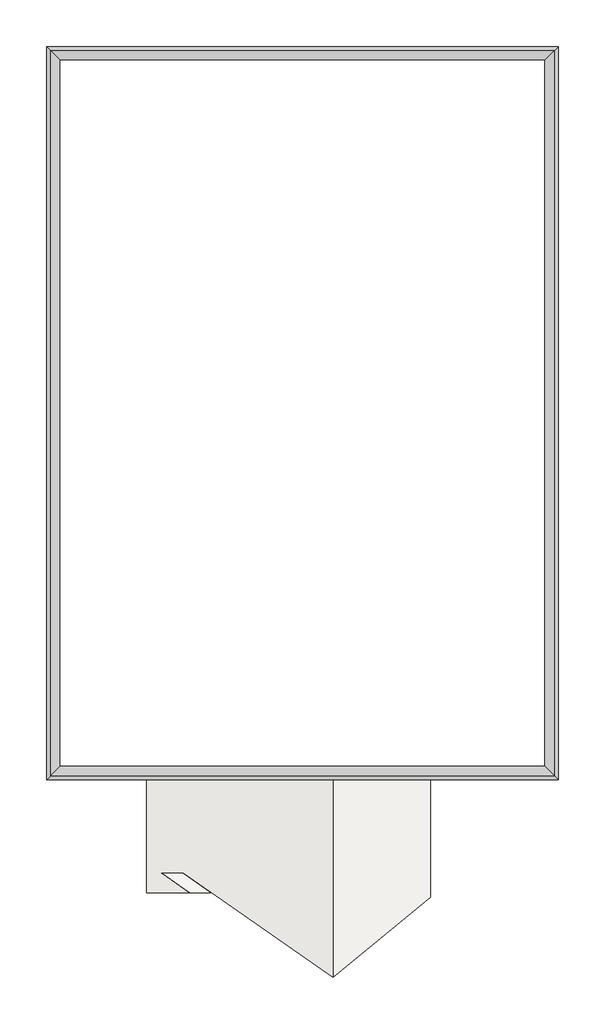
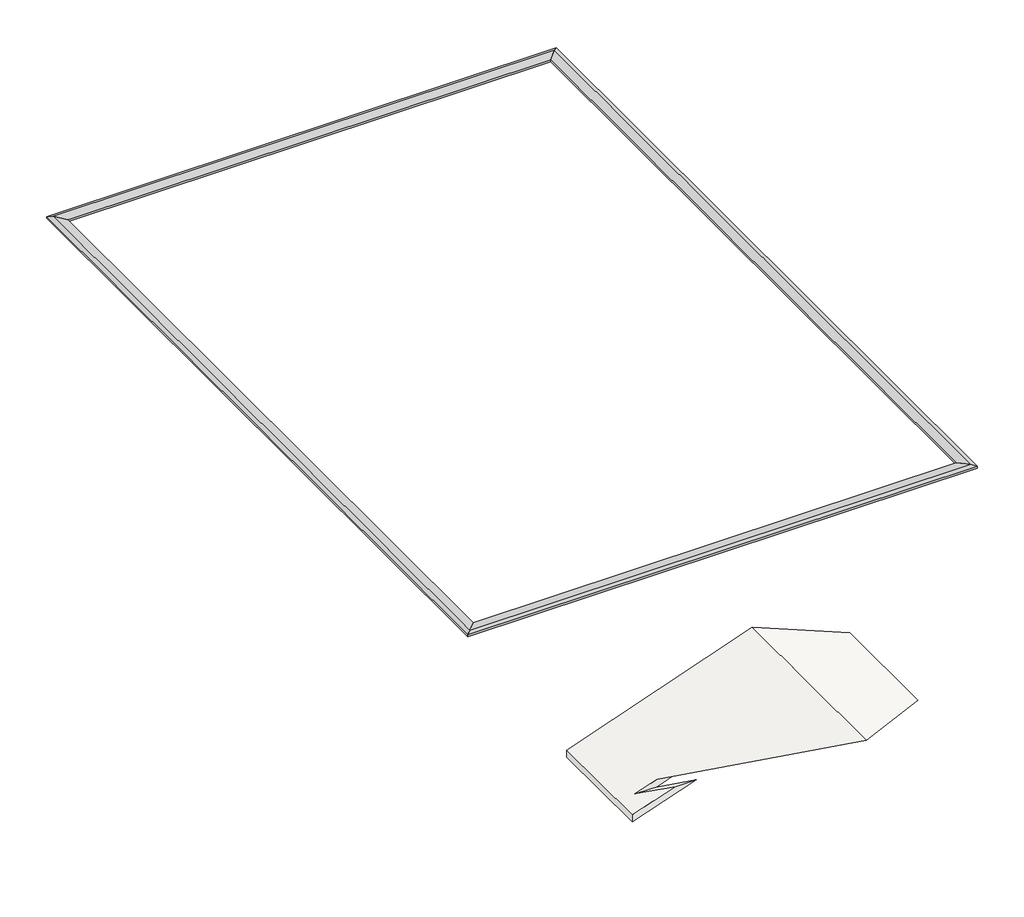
# One storey: 4 proxies, 1 roof.
"""IFC4 building model written with IfcOpenShell, lengths in millimetres."""

from ifc_helpers import new_model, si_unit, origin, place, context, project, spatial, faceted_brep, element, save

model = new_model("IFC4")

# Units and contexts
model_context = context("Model", 3, world=origin())
ifc_project = project(units=[si_unit("LENGTHUNIT", "METRE", prefix="MILLI")], contexts=[model_context])

# Site, building, storey
site = spatial("IfcSite", under=ifc_project)
building = spatial("IfcBuilding", under=site)
storey = spatial("IfcBuildingStorey", under=building, Name="T. O. Parapet", Elevation=49987.2)

# Proxies
placement = place(None, origin())
element("IfcBuildingElementProxy", 1, Name="Wall Sweeps", at=placement, inside=storey, context=model_context, shape_type="Brep", body=[
    faceted_brep([(-14468.5042336, 21674.0605156, 50050.7), (-14747.9042336, 21953.4605156, 50088.8), (-14874.9042336, 22080.4605156, 50050.7), (-14874.9042336, 22080.4605156, 49987.2), (-14468.5042336, 21674.0605156, 49987.2), (260.3207664, 21674.0605156, 50050.7), (260.3207664, 21674.0605156, 49987.2), (666.7207664, 22080.4605156, 49987.2), (666.7207664, 22080.4605156, 50050.7), (539.7207664, 21953.4605156, 50088.8)], [[[0, 1, 2, 3, 4]], [[5, 6, 7, 8, 9]], [[1, 0, 5, 9]], [[2, 1, 9, 8]], [[3, 2, 8, 7]], [[4, 3, 7, 6]], [[0, 4, 6, 5]]]),
])
element("IfcBuildingElementProxy", 2, Name="Wall Sweeps", at=placement, inside=storey, context=model_context, shape_type="Brep", body=[
    faceted_brep([(-14468.5042336, 239.6355156, 50050.7), (-14747.9042336, -39.7644844, 50088.8), (-14874.9042336, -166.7644844, 50050.7), (-14874.9042336, -166.7644844, 49987.2), (-14468.5042336, 239.6355156, 49987.2), (-14468.5042336, 21674.0605156, 50050.7), (-14468.5042336, 21674.0605156, 49987.2), (-14874.9042336, 22080.4605156, 49987.2), (-14874.9042336, 22080.4605156, 50050.7), (-14747.9042336, 21953.4605156, 50088.8)], [[[0, 1, 2, 3, 4]], [[5, 6, 7, 8, 9]], [[1, 0, 5, 9]], [[2, 1, 9, 8]], [[3, 2, 8, 7]], [[4, 3, 7, 6]], [[0, 4, 6, 5]]]),
])
element("IfcBuildingElementProxy", 3, Name="Wall Sweeps", at=placement, inside=storey, context=model_context, shape_type="Brep", body=[
    faceted_brep([(260.3207664, 239.6355156, 50050.7), (539.7207664, -39.7644844, 50088.8), (666.7207664, -166.7644844, 50050.7), (666.7207664, -166.7644844, 49987.2), (260.3207664, 239.6355156, 49987.2), (-14468.5042336, 239.6355156, 50050.7), (-14468.5042336, 239.6355156, 49987.2), (-14874.9042336, -166.7644844, 49987.2), (-14874.9042336, -166.7644844, 50050.7), (-14747.9042336, -39.7644844, 50088.8)], [[[0, 1, 2, 3, 4]], [[5, 6, 7, 8, 9]], [[1, 0, 5, 9]], [[2, 1, 9, 8]], [[3, 2, 8, 7]], [[4, 3, 7, 6]], [[0, 4, 6, 5]]]),
])
element("IfcBuildingElementProxy", 4, Name="Wall Sweeps", at=placement, inside=storey, context=model_context, shape_type="Brep", body=[
    faceted_brep([(260.3207664, 21674.0605156, 50050.7), (539.7207664, 21953.4605156, 50088.8), (666.7207664, 22080.4605156, 50050.7), (666.7207664, 22080.4605156, 49987.2), (260.3207664, 21674.0605156, 49987.2), (260.3207664, 239.6355156, 50050.7), (260.3207664, 239.6355156, 49987.2), (666.7207664, -166.7644844, 49987.2), (666.7207664, -166.7644844, 50050.7), (539.7207664, -39.7644844, 50088.8)], [[[0, 1, 2, 3, 4]], [[5, 6, 7, 8, 9]], [[1, 0, 5, 9]], [[2, 1, 9, 8]], [[3, 2, 8, 7]], [[4, 3, 7, 6]], [[0, 4, 6, 5]]]),
])

# Roof
element("IfcRoof", 5, ObjectType="Wood Rafter 8\" - Asphalt Shingle - Insulated", at=placement, inside=storey, context=model_context, shape_type="Brep", body=[
    faceted_brep([(-3211.5417336, -141.3644844, 46024.8), (-6181.7542336, -141.3644844, 47244.0), (-6181.7542336, -6163.3344239, 47244.0), (-3211.5417336, -3724.9344239, 46024.8), (-11836.4292336, -141.3644844, 45262.8), (-11836.4292336, -3591.0019844, 45262.8), (-10531.5042336, -3591.0019844, 45720.0), (-11401.4542336, -2981.4019844, 45415.2), (-10722.6369858, -2981.4019844, 45653.0337803), (-11836.4292336, -3591.0019844, 45037.3962439), (-11836.4292336, -141.3644844, 45037.3962439), (-6187.7279036, -141.3644844, 47016.5032792), (-6187.7279036, -5708.3409824, 47016.5032792), (-10079.2970986, -2981.4019844, 45653.0337803), (-10758.1143464, -2981.4019844, 45415.2), (-9888.1643464, -3591.0019844, 45720.0), (-3211.5417336, -141.3644844, 45794.8512329), (-3211.5417336, -3265.0368898, 45794.8512329)], [[[0, 1, 2, 3]], [[1, 4, 5, 6, 7, 8, 2]], [[9, 5, 4, 10]], [[10, 11, 12, 13, 14, 15, 9]], [[11, 16, 17, 12]], [[16, 0, 3, 17]], [[3, 2, 8, 13, 12, 17]], [[5, 9, 15, 6]], [[14, 7, 6, 15]], [[13, 8, 7, 14]], [[1, 0, 16, 11, 10, 4]]]),
])

save(model, "model.ifc")
